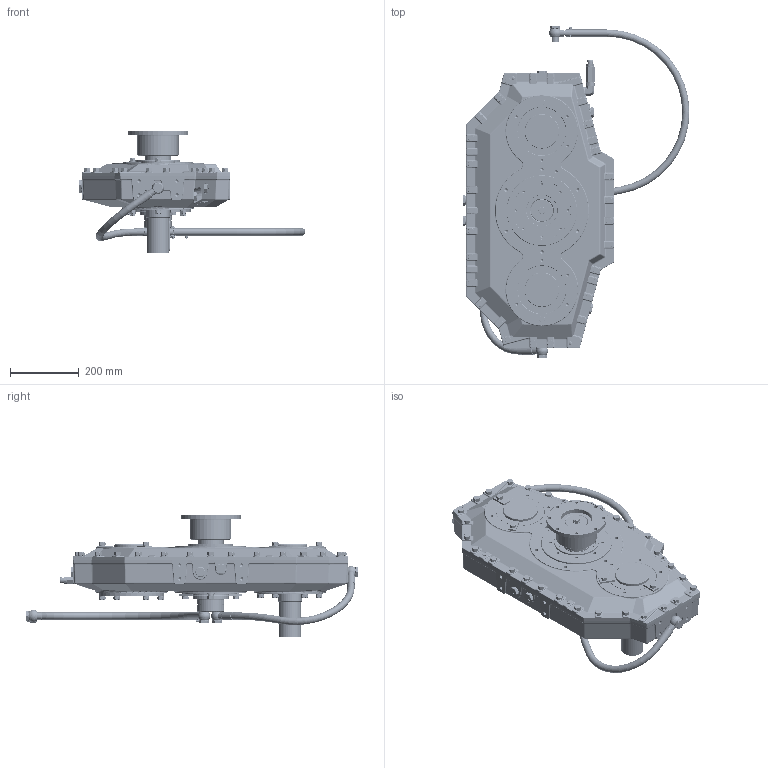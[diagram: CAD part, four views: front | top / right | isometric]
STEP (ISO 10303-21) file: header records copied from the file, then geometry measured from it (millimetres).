
FILE_DESCRIPTION (( 'STEP AP214' ), '1' );
FILE_NAME ('1029019D.STEP', '2016-04-18T13:13:07', ( '' ), ( '' ), 'SwSTEP 2.0', 'SolidWorks 2007', '' );
FILE_SCHEMA (( 'AUTOMOTIVE_DESIGN' ));
Length unit declared in the file: millimetre
Products named in the file (11): 1029019D; IT2062307_rev02-installation; IT1054022_rev00-installation; IT0000394_rev00-installation; IT4588040_rev00-installation; IT1042460_rev00-installation; IT0000203_rev00-installation; IT1042248_rev01-installation; IT2021216_rev03-installation; ITam230-001_rev01-installation; ITB90810000_rev00-installation
Assembly tree (11 placements, depth 2):
  1029019D
    IT1042248_rev01-installation
    IT0000394_rev00-installation  x2
    IT1042460_rev00-installation
    IT0000203_rev00-installation
    ITB90810000_rev00-installation
    IT2062307_rev02-installation
    IT1054022_rev00-installation
    IT2021216_rev03-installation
    IT4588040_rev00-installation
    ITam230-001_rev01-installation
Bounding box: 659.24 x 964.24 x 355 mm (x, y, z)
Volume: 4974210.2 mm3; surface area: 2397907.4 mm2
Topology: 57 solids, 188 shells, 8477 faces, 20558 edges, 12648 vertices
Faces by surface type: plane 3127, cylinder 2795, bspline 1104, cone 828, torus 487, sphere 136
Entity records: 380890 total; most frequent: CARTESIAN_POINT 98751, ORIENTED_EDGE 40178, DIRECTION 38378, EDGE_CURVE 20091, AXIS2_PLACEMENT_3D 14752, VERTEX_POINT 12504, EDGE_LOOP 9311, VECTOR 8874
